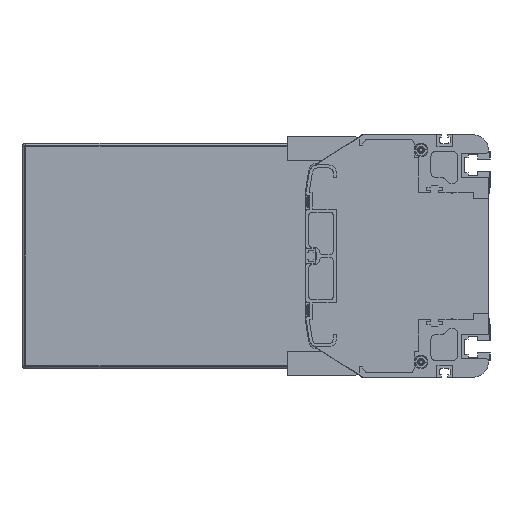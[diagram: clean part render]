
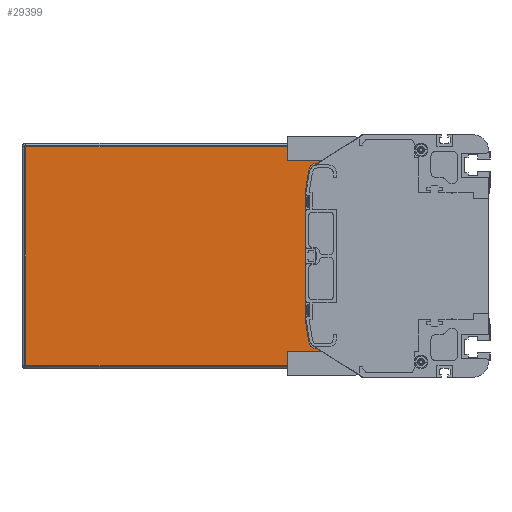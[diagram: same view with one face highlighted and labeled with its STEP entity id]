
A CAD part, left-side view. The second image highlights one B-rep face of the part: STEP entity #29399.
In plain terms, the highlighted planar face has unit normal (-1, 0, 0).
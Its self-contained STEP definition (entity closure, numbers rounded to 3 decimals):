
#782=DIRECTION('',(0.,-1.,0.));
#783=VECTOR('',#782,220.5);
#784=CARTESIAN_POINT('',(686.5,306.5,-72.));
#785=LINE('',#784,#783);
#4548=DIRECTION('',(0.,-1.,0.));
#4549=VECTOR('',#4548,28.728);
#4550=CARTESIAN_POINT('',(686.5,114.728,61.));
#4551=LINE('',#4550,#4549);
#4594=DIRECTION('',(0.,1.,0.));
#4595=VECTOR('',#4594,28.728);
#4596=CARTESIAN_POINT('',(686.5,86.,-61.));
#4597=LINE('',#4596,#4595);
#4607=DIRECTION('',(0.,0.,-1.));
#4608=VECTOR('',#4607,11.);
#4609=CARTESIAN_POINT('',(686.5,86.,-61.));
#4610=LINE('',#4609,#4608);
#4616=DIRECTION('',(0.,0.,-1.));
#4617=VECTOR('',#4616,11.);
#4618=CARTESIAN_POINT('',(686.5,86.,72.));
#4619=LINE('',#4618,#4617);
#10652=CARTESIAN_POINT('',(686.5,114.728,56.));
#10653=DIRECTION('',(-1.,0.,0.));
#10654=DIRECTION('',(0.,0.,1.));
#10655=AXIS2_PLACEMENT_3D('',#10652,#10653,#10654);
#10657=DIRECTION('',(0.,0.156,-0.988));
#10658=VECTOR('',#10657,14.963);
#10659=CARTESIAN_POINT('',(686.5,119.666,56.78));
#10660=LINE('',#10659,#10658);
#10661=DIRECTION('',(0.,-0.156,-0.988));
#10662=VECTOR('',#10661,14.963);
#10663=CARTESIAN_POINT('',(686.5,122.,-42.));
#10664=LINE('',#10663,#10662);
#10665=CARTESIAN_POINT('',(686.5,114.728,-56.));
#10666=DIRECTION('',(-1.,0.,0.));
#10667=DIRECTION('',(0.,0.988,-0.156));
#10668=AXIS2_PLACEMENT_3D('',#10665,#10666,#10667);
#10674=DIRECTION('',(0.,0.,-1.));
#10675=VECTOR('',#10674,144.);
#10676=CARTESIAN_POINT('',(686.5,306.5,72.));
#10677=LINE('',#10676,#10675);
#10765=DIRECTION('',(0.,1.,0.));
#10766=VECTOR('',#10765,220.5);
#10767=CARTESIAN_POINT('',(686.5,86.,72.));
#10768=LINE('',#10767,#10766);
#11056=DIRECTION('',(0.,0.,1.));
#11057=VECTOR('',#11056,84.);
#11058=CARTESIAN_POINT('',(686.5,122.,-42.));
#11059=LINE('',#11058,#11057);
#12951=CARTESIAN_POINT('',(686.5,306.5,-72.));
#12952=CARTESIAN_POINT('',(686.5,86.,-72.));
#12953=VERTEX_POINT('',#12951);
#12954=VERTEX_POINT('',#12952);
#12955=CARTESIAN_POINT('',(686.5,86.,-61.));
#12956=VERTEX_POINT('',#12955);
#12957=CARTESIAN_POINT('',(686.5,114.728,-61.));
#12958=VERTEX_POINT('',#12957);
#12959=CARTESIAN_POINT('',(686.5,119.666,-56.78));
#12960=VERTEX_POINT('',#12959);
#12961=CARTESIAN_POINT('',(686.5,122.,-42.));
#12962=VERTEX_POINT('',#12961);
#12963=CARTESIAN_POINT('',(686.5,122.,42.));
#12964=VERTEX_POINT('',#12963);
#12965=CARTESIAN_POINT('',(686.5,119.666,56.78));
#12966=VERTEX_POINT('',#12965);
#12967=CARTESIAN_POINT('',(686.5,114.728,61.));
#12968=VERTEX_POINT('',#12967);
#12969=CARTESIAN_POINT('',(686.5,86.,61.));
#12970=VERTEX_POINT('',#12969);
#12971=CARTESIAN_POINT('',(686.5,86.,72.));
#12972=VERTEX_POINT('',#12971);
#12973=CARTESIAN_POINT('',(686.5,306.5,72.));
#12974=VERTEX_POINT('',#12973);
#29373=CARTESIAN_POINT('',(686.5,196.25,0.));
#29374=DIRECTION('',(1.,0.,0.));
#29375=DIRECTION('',(0.,0.,-1.));
#29376=AXIS2_PLACEMENT_3D('',#29373,#29374,#29375);
#29377=PLANE('',#29376);
#29378=ORIENTED_EDGE('',*,*,#16913,.F.);
#29380=ORIENTED_EDGE('',*,*,#29379,.F.);
#29382=ORIENTED_EDGE('',*,*,#29381,.F.);
#29383=ORIENTED_EDGE('',*,*,#21014,.T.);
#29384=ORIENTED_EDGE('',*,*,#20921,.F.);
#29386=ORIENTED_EDGE('',*,*,#29385,.T.);
#29388=ORIENTED_EDGE('',*,*,#29387,.T.);
#29390=ORIENTED_EDGE('',*,*,#29389,.F.);
#29392=ORIENTED_EDGE('',*,*,#29391,.T.);
#29394=ORIENTED_EDGE('',*,*,#29393,.T.);
#29395=ORIENTED_EDGE('',*,*,#20972,.F.);
#29396=ORIENTED_EDGE('',*,*,#20988,.T.);
#29397=EDGE_LOOP('',(#29378,#29380,#29382,#29383,#29384,#29386,#29388,#29390,
#29392,#29394,#29395,#29396));
#29398=FACE_OUTER_BOUND('',#29397,.F.);
#29399=ADVANCED_FACE('',(#29398),#29377,.F.);
#10656=CIRCLE('',#10655,5.);
#10669=CIRCLE('',#10668,5.);
#16913=EDGE_CURVE('',#12953,#12954,#785,.T.);
#20921=EDGE_CURVE('',#12968,#12970,#4551,.T.);
#20972=EDGE_CURVE('',#12956,#12958,#4597,.T.);
#20988=EDGE_CURVE('',#12956,#12954,#4610,.T.);
#21014=EDGE_CURVE('',#12972,#12970,#4619,.T.);
#29379=EDGE_CURVE('',#12974,#12953,#10677,.T.);
#29381=EDGE_CURVE('',#12972,#12974,#10768,.T.);
#29385=EDGE_CURVE('',#12968,#12966,#10656,.T.);
#29387=EDGE_CURVE('',#12966,#12964,#10660,.T.);
#29389=EDGE_CURVE('',#12962,#12964,#11059,.T.);
#29391=EDGE_CURVE('',#12962,#12960,#10664,.T.);
#29393=EDGE_CURVE('',#12960,#12958,#10669,.T.);
